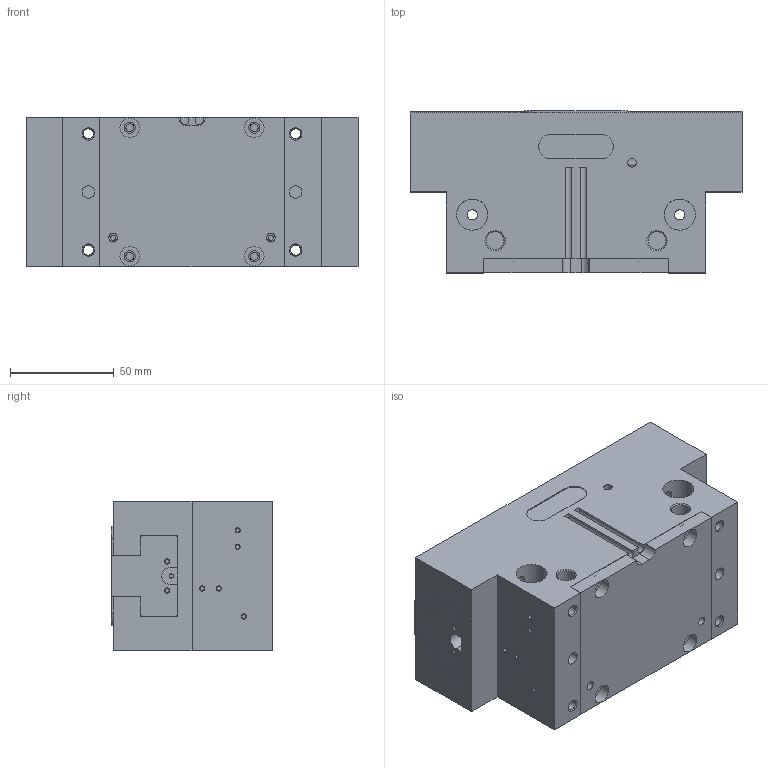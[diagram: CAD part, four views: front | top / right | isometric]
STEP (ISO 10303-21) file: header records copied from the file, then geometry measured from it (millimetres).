
FILE_DESCRIPTION( ( 'STEP AP214' ), '1' );
FILE_NAME( 'C:/Users/ashearer/Desktop/Mindman New CAD/Grippers/MCHS-SD-160_0_.stp', ' ', ( ' ' ), ( ' ' ), 'PSStep 15.0.47', 'PARTsolutions', ' ' );
FILE_SCHEMA( ( 'AUTOMOTIVE_DESIGN { 1 0 10303 214 1 1 1 1 }' ) );
Length unit declared in the file: millimetre
Products named in the file (4): MCHS-SD-160(0); _MCHS-SD-160(dummy_0); _MCHS-SD-160_body; _MCHS-SD-160_finger
Assembly tree (4 placements, depth 2):
  MCHS-SD-160(0)
    _MCHS-SD-160(dummy_0)
    _MCHS-SD-160_body
    _MCHS-SD-160_finger  x2
Bounding box: 160 x 78 x 72 mm (x, y, z)
Volume: 718066.4 mm3; surface area: 123531.9 mm2
Topology: 3 solids, 3 shells, 368 faces, 861 edges, 554 vertices
Faces by surface type: plane 206, cylinder 100, cone 62
Full cylindrical faces by diameter (mm): 2.013 x16, 2.459 x2, 2.5 x4, 2.85 x4, 3.688 x4, 4.134 x2, 4.2 x2, 4.917 x12, 5.3 x4, 6 x4, 6.647 x6, 8.566 x4, 9.4 x4, 11 x4, 12 x4, 15 x2
Entity records: 10128 total; most frequent: CARTESIAN_POINT 1488, DIRECTION 1340, ORIENTED_EDGE 1048, AXIS2_PLACEMENT_3D 525, EDGE_CURVE 524, EDGE_LOOP 494, VERTEX_POINT 408, FACE_OUTER_BOUND 360
